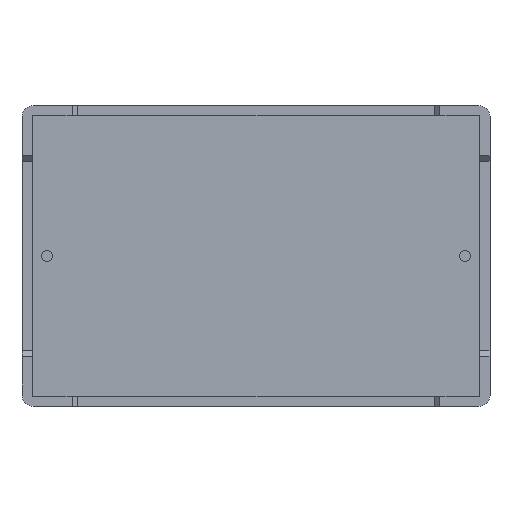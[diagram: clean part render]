
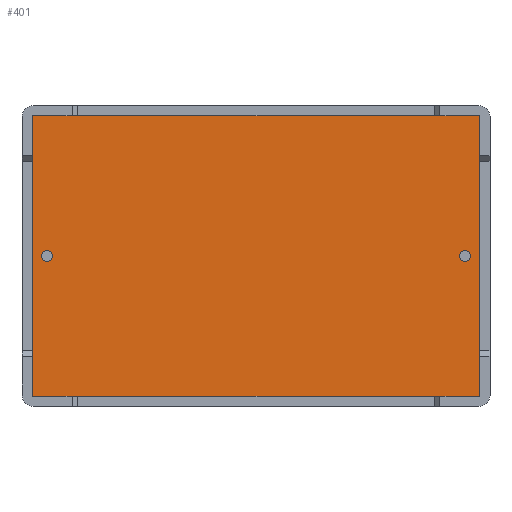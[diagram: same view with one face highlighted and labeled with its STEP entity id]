
A CAD part, front view. The second image highlights one B-rep face of the part: STEP entity #401.
In plain terms, the highlighted planar face has unit normal (0, -1, 0).
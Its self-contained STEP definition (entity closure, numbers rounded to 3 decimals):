
#44 = CARTESIAN_POINT ( 'NONE',  ( 18.75, 1., 0. ) ) ;
#45 = CARTESIAN_POINT ( 'NONE',  ( -20.1, 1., 12.6 ) ) ;
#132 = EDGE_CURVE ( 'NONE', #2067, #3618, #890, .T. ) ;
#160 = VERTEX_POINT ( 'NONE', #1358 ) ;
#174 = EDGE_CURVE ( 'NONE', #318, #410, #618, .T. ) ;
#221 = EDGE_CURVE ( 'NONE', #2003, #160, #310, .T. ) ;
#267 = EDGE_CURVE ( 'NONE', #4109, #3517, #4299, .T. ) ;
#277 = EDGE_CURVE ( 'NONE', #1085, #2865, #4129, .T. ) ;
#285 = EDGE_CURVE ( 'NONE', #2458, #2709, #3820, .T. ) ;
#286 = EDGE_CURVE ( 'NONE', #3517, #2003, #3980, .T. ) ;
#299 = EDGE_CURVE ( 'NONE', #160, #318, #3661, .T. ) ;
#309 = EDGE_CURVE ( 'NONE', #410, #2067, #3449, .T. ) ;
#310 = LINE ( 'NONE', #2516, #371 ) ;
#318 = VERTEX_POINT ( 'NONE', #3440 ) ;
#320 = EDGE_CURVE ( 'NONE', #3618, #4109, #3444, .T. ) ;
#371 = VECTOR ( 'NONE', #2374, 1000. ) ;
#401 = ADVANCED_FACE ( 'NONE', ( #1778, #1797, #1767 ), #2180, .T. ) ;
#410 = VERTEX_POINT ( 'NONE', #1556 ) ;
#493 = DIRECTION ( 'NONE',  ( 0., 0., -1. ) ) ;
#618 = LINE ( 'NONE', #1259, #634 ) ;
#634 = VECTOR ( 'NONE', #1214, 1000. ) ;
#635 = ORIENTED_EDGE ( 'NONE', *, *, #277, .F. ) ;
#640 = ORIENTED_EDGE ( 'NONE', *, *, #1142, .F. ) ;
#648 = ORIENTED_EDGE ( 'NONE', *, *, #285, .F. ) ;
#655 = ORIENTED_EDGE ( 'NONE', *, *, #4169, .F. ) ;
#691 = ORIENTED_EDGE ( 'NONE', *, *, #267, .T. ) ;
#696 = ORIENTED_EDGE ( 'NONE', *, *, #286, .T. ) ;
#704 = ORIENTED_EDGE ( 'NONE', *, *, #221, .T. ) ;
#709 = ORIENTED_EDGE ( 'NONE', *, *, #299, .T. ) ;
#730 = CARTESIAN_POINT ( 'NONE',  ( -18.75, 1., 0. ) ) ;
#745 = ORIENTED_EDGE ( 'NONE', *, *, #309, .T. ) ;
#748 = ORIENTED_EDGE ( 'NONE', *, *, #132, .T. ) ;
#753 = ORIENTED_EDGE ( 'NONE', *, *, #320, .T. ) ;
#791 = AXIS2_PLACEMENT_3D ( 'NONE', #4243, #4176, #4162 ) ;
#842 = CARTESIAN_POINT ( 'NONE',  ( 18.75, 1., 0.5 ) ) ;
#843 = DIRECTION ( 'NONE',  ( 0., 0., -1. ) ) ;
#890 = LINE ( 'NONE', #1828, #943 ) ;
#943 = VECTOR ( 'NONE', #1820, 1000. ) ;
#973 = AXIS2_PLACEMENT_3D ( 'NONE', #1934, #2803, #2799 ) ;
#1085 = VERTEX_POINT ( 'NONE', #842 ) ;
#1142 = EDGE_CURVE ( 'NONE', #2865, #1085, #1881, .T. ) ;
#1143 = DIRECTION ( 'NONE',  ( 0., 0., -1. ) ) ;
#1214 = DIRECTION ( 'NONE',  ( 0., 0., 1. ) ) ;
#1259 = CARTESIAN_POINT ( 'NONE',  ( 20.1, 1., -12.6 ) ) ;
#1358 = CARTESIAN_POINT ( 'NONE',  ( 20., 1., -12.6 ) ) ;
#1556 = CARTESIAN_POINT ( 'NONE',  ( 20.1, 1., 12.5 ) ) ;
#1615 = CARTESIAN_POINT ( 'NONE',  ( -18.75, 1., 0.5 ) ) ;
#1702 = AXIS2_PLACEMENT_3D ( 'NONE', #3017, #2998, #2982 ) ;
#1755 = CIRCLE ( 'NONE', #2041, 0.5 ) ;
#1767 = FACE_OUTER_BOUND ( 'NONE', #2209, .T. ) ;
#1778 = FACE_BOUND ( 'NONE', #2189, .T. ) ;
#1786 = AXIS2_PLACEMENT_3D ( 'NONE', #2755, #2749, #2728 ) ;
#1797 = FACE_BOUND ( 'NONE', #2166, .T. ) ;
#1820 = DIRECTION ( 'NONE',  ( -1., 0., 0. ) ) ;
#1828 = CARTESIAN_POINT ( 'NONE',  ( 20.1, 1., 12.6 ) ) ;
#1881 = CIRCLE ( 'NONE', #2135, 0.5 ) ;
#1934 = CARTESIAN_POINT ( 'NONE',  ( 20., 1., 12.5 ) ) ;
#2003 = VERTEX_POINT ( 'NONE', #2545 ) ;
#2041 = AXIS2_PLACEMENT_3D ( 'NONE', #730, #3146, #1143 ) ;
#2067 = VERTEX_POINT ( 'NONE', #4019 ) ;
#2103 = CARTESIAN_POINT ( 'NONE',  ( 18.75, 1., -0.5 ) ) ;
#2135 = AXIS2_PLACEMENT_3D ( 'NONE', #44, #2661, #493 ) ;
#2164 = DIRECTION ( 'NONE',  ( 0., 0., -1. ) ) ;
#2166 = EDGE_LOOP ( 'NONE', ( #648, #655 ) ) ;
#2180 = PLANE ( 'NONE',  #4224 ) ;
#2189 = EDGE_LOOP ( 'NONE', ( #635, #640 ) ) ;
#2207 = CARTESIAN_POINT ( 'NONE',  ( 0., 1., 0. ) ) ;
#2209 = EDGE_LOOP ( 'NONE', ( #691, #696, #704, #709, #2468, #745, #748, #753 ) ) ;
#2246 = AXIS2_PLACEMENT_3D ( 'NONE', #2526, #2501, #2496 ) ;
#2287 = CARTESIAN_POINT ( 'NONE',  ( -20., 1., 12.6 ) ) ;
#2324 = DIRECTION ( 'NONE',  ( 0., -1., 0. ) ) ;
#2374 = DIRECTION ( 'NONE',  ( 1., 0., 0. ) ) ;
#2458 = VERTEX_POINT ( 'NONE', #1615 ) ;
#2468 = ORIENTED_EDGE ( 'NONE', *, *, #174, .T. ) ;
#2496 = DIRECTION ( 'NONE',  ( 0., 0., -1. ) ) ;
#2501 = DIRECTION ( 'NONE',  ( 0., -1., 0. ) ) ;
#2516 = CARTESIAN_POINT ( 'NONE',  ( -20.1, 1., -12.6 ) ) ;
#2526 = CARTESIAN_POINT ( 'NONE',  ( -20., 1., -12.5 ) ) ;
#2545 = CARTESIAN_POINT ( 'NONE',  ( -20., 1., -12.6 ) ) ;
#2661 = DIRECTION ( 'NONE',  ( 0., -1., 0. ) ) ;
#2709 = VERTEX_POINT ( 'NONE', #3633 ) ;
#2728 = DIRECTION ( 'NONE',  ( 0., 0., -1. ) ) ;
#2749 = DIRECTION ( 'NONE',  ( 0., -1., 0. ) ) ;
#2755 = CARTESIAN_POINT ( 'NONE',  ( -18.75, 1., 0. ) ) ;
#2799 = DIRECTION ( 'NONE',  ( 0., 0., -1. ) ) ;
#2803 = DIRECTION ( 'NONE',  ( 0., -1., 0. ) ) ;
#2813 = CARTESIAN_POINT ( 'NONE',  ( -20.1, 1., 12.5 ) ) ;
#2865 = VERTEX_POINT ( 'NONE', #2103 ) ;
#2919 = DIRECTION ( 'NONE',  ( 0., 0., -1. ) ) ;
#2982 = DIRECTION ( 'NONE',  ( 0., 0., -1. ) ) ;
#2998 = DIRECTION ( 'NONE',  ( 0., -1., 0. ) ) ;
#3003 = DIRECTION ( 'NONE',  ( 0., -1., 0. ) ) ;
#3017 = CARTESIAN_POINT ( 'NONE',  ( -20., 1., 12.5 ) ) ;
#3044 = CARTESIAN_POINT ( 'NONE',  ( 20., 1., -12.5 ) ) ;
#3146 = DIRECTION ( 'NONE',  ( 0., -1., 0. ) ) ;
#3440 = CARTESIAN_POINT ( 'NONE',  ( 20.1, 1., -12.5 ) ) ;
#3444 = CIRCLE ( 'NONE', #1702, 0.1 ) ;
#3449 = CIRCLE ( 'NONE', #973, 0.1 ) ;
#3517 = VERTEX_POINT ( 'NONE', #4290 ) ;
#3618 = VERTEX_POINT ( 'NONE', #2287 ) ;
#3633 = CARTESIAN_POINT ( 'NONE',  ( -18.75, 1., -0.5 ) ) ;
#3661 = CIRCLE ( 'NONE', #3864, 0.1 ) ;
#3820 = CIRCLE ( 'NONE', #1786, 0.5 ) ;
#3864 = AXIS2_PLACEMENT_3D ( 'NONE', #3044, #3003, #2919 ) ;
#3980 = CIRCLE ( 'NONE', #2246, 0.1 ) ;
#4019 = CARTESIAN_POINT ( 'NONE',  ( 20., 1., 12.6 ) ) ;
#4109 = VERTEX_POINT ( 'NONE', #2813 ) ;
#4129 = CIRCLE ( 'NONE', #791, 0.5 ) ;
#4162 = DIRECTION ( 'NONE',  ( 0., 0., -1. ) ) ;
#4169 = EDGE_CURVE ( 'NONE', #2709, #2458, #1755, .T. ) ;
#4176 = DIRECTION ( 'NONE',  ( 0., -1., 0. ) ) ;
#4224 = AXIS2_PLACEMENT_3D ( 'NONE', #2207, #2324, #2164 ) ;
#4243 = CARTESIAN_POINT ( 'NONE',  ( 18.75, 1., 0. ) ) ;
#4290 = CARTESIAN_POINT ( 'NONE',  ( -20.1, 1., -12.5 ) ) ;
#4299 = LINE ( 'NONE', #45, #4310 ) ;
#4310 = VECTOR ( 'NONE', #843, 1000. ) ;
